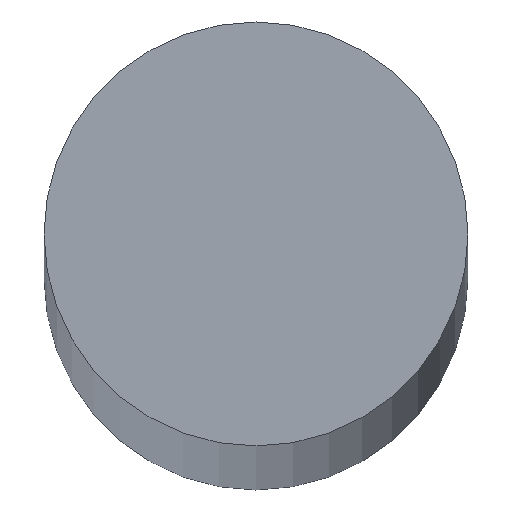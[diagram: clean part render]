
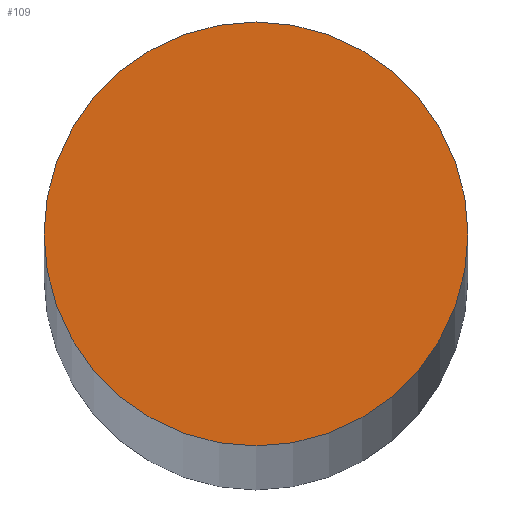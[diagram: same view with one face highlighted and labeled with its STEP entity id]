
A CAD part, top view. The second image highlights one B-rep face of the part: STEP entity #109.
In plain terms, the highlighted planar face has unit normal (0, 0, 1).
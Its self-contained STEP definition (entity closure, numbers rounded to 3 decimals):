
#24 = VERTEX_POINT('',#25);
#25 = CARTESIAN_POINT('',(2.,0.,119.));
#32 = CYLINDRICAL_SURFACE('',#33,2.);
#33 = AXIS2_PLACEMENT_3D('',#34,#35,#36);
#34 = CARTESIAN_POINT('',(0.,0.,-119.));
#35 = DIRECTION('',(-0.,-0.,-1.));
#36 = DIRECTION('',(1.,0.,0.));
#51 = EDGE_CURVE('',#24,#24,#52,.T.);
#52 = SURFACE_CURVE('',#53,(#58,#65),.PCURVE_S1.);
#53 = CIRCLE('',#54,2.);
#54 = AXIS2_PLACEMENT_3D('',#55,#56,#57);
#55 = CARTESIAN_POINT('',(0.,0.,119.));
#56 = DIRECTION('',(0.,0.,1.));
#57 = DIRECTION('',(1.,0.,0.));
#58 = PCURVE('',#32,#59);
#59 = DEFINITIONAL_REPRESENTATION('',(#60),#64);
#60 = LINE('',#61,#62);
#61 = CARTESIAN_POINT('',(-0.,-238.));
#62 = VECTOR('',#63,1.);
#63 = DIRECTION('',(-1.,0.));
#64 = ( GEOMETRIC_REPRESENTATION_CONTEXT(2) 
PARAMETRIC_REPRESENTATION_CONTEXT() REPRESENTATION_CONTEXT('2D SPACE',''
  ) );
#65 = PCURVE('',#66,#71);
#66 = PLANE('',#67);
#67 = AXIS2_PLACEMENT_3D('',#68,#69,#70);
#68 = CARTESIAN_POINT('',(0.,0.,119.));
#69 = DIRECTION('',(0.,0.,1.));
#70 = DIRECTION('',(1.,0.,-0.));
#71 = DEFINITIONAL_REPRESENTATION('',(#72),#76);
#72 = CIRCLE('',#73,2.);
#73 = AXIS2_PLACEMENT_2D('',#74,#75);
#74 = CARTESIAN_POINT('',(0.,0.));
#75 = DIRECTION('',(1.,0.));
#76 = ( GEOMETRIC_REPRESENTATION_CONTEXT(2) 
PARAMETRIC_REPRESENTATION_CONTEXT() REPRESENTATION_CONTEXT('2D SPACE',''
  ) );
#109 = ADVANCED_FACE('',(#110),#66,.T.);
#110 = FACE_BOUND('',#111,.T.);
#111 = EDGE_LOOP('',(#112));
#112 = ORIENTED_EDGE('',*,*,#51,.T.);
